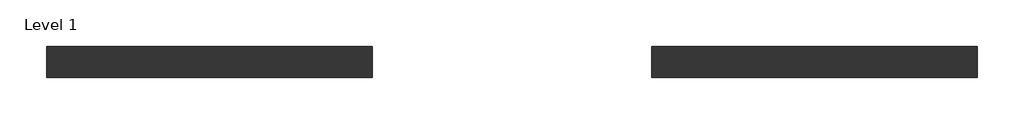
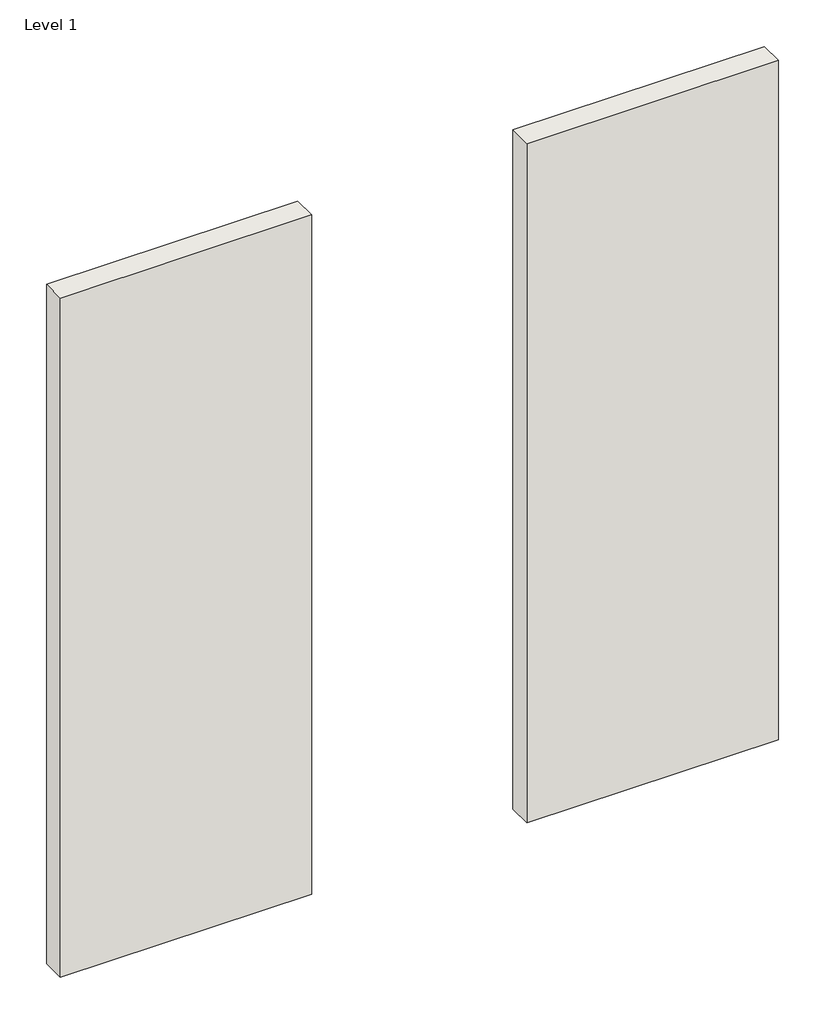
# One storey: 2 walls.
"""IFC4 building model written with IfcOpenShell, lengths in millimetres."""

from ifc_helpers import new_model, si_unit, origin, origin_with_axes, place, context, project, spatial, polyline, outline, extrude, element, save

model = new_model("IFC4")

# Units and contexts
model_context = context("Model", 3, world=origin())
ifc_project = project(units=[si_unit("LENGTHUNIT", "METRE", prefix="MILLI")], contexts=[model_context])

# Site, building, storey
site = spatial("IfcSite", under=ifc_project)
building = spatial("IfcBuilding", under=site)
storey = spatial("IfcBuildingStorey", under=building, Name="Level 1", Elevation=0.0)

# Walls
placement = place(None, origin())
element("IfcWall", 1, ObjectType="Generic - 8\"", at=placement, inside=storey, context=model_context, shape_type="SweptSolid", body=[
    extrude(outline(polyline([(5506.1470165, 2654.6056529), (7639.7470165, 2654.6056529), (7639.7470165, 2451.4056529), (5506.1470165, 2451.4056529), (5506.1470165, 2654.6056529)])), origin_with_axes(), (0.0, 0.0, 1.0), 6096.0),
])
element("IfcWall", 2, ObjectType="Generic - 8\"", at=placement, inside=storey, context=model_context, shape_type="SweptSolid", body=[
    extrude(outline(polyline([(1543.7470165, 2654.6056529), (3677.3470165, 2654.6056529), (3677.3470165, 2451.4056529), (1543.7470165, 2451.4056529), (1543.7470165, 2654.6056529)])), origin_with_axes(), (0.0, 0.0, 1.0), 6096.0),
])

save(model, "model.ifc")
